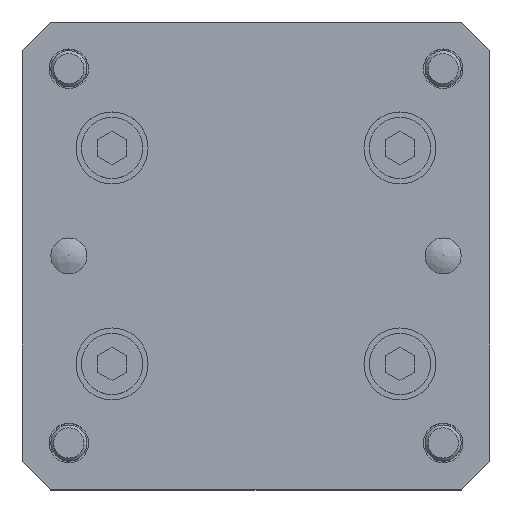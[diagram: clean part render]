
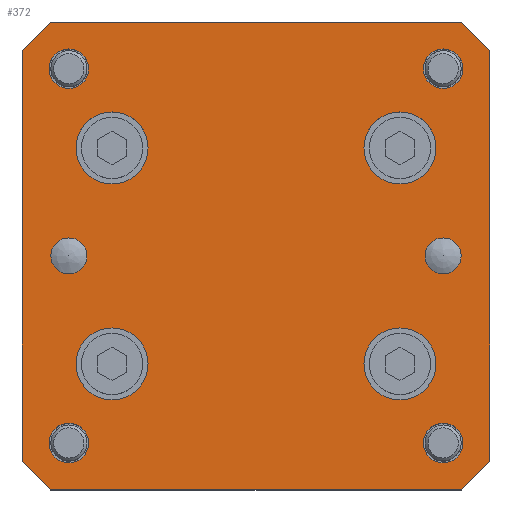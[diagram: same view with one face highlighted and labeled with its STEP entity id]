
A CAD part, top view. The second image highlights one B-rep face of the part: STEP entity #372.
In plain terms, the highlighted planar face has unit normal (0, 0, 1).
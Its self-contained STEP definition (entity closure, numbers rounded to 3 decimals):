
#372 = ADVANCED_FACE( '', ( #852, #853, #854, #855, #856, #857, #858, #859, #860, #861, #862 ), #863, .F. );
#852 = FACE_BOUND( '', #1443, .T. );
#853 = FACE_BOUND( '', #1444, .T. );
#854 = FACE_BOUND( '', #1445, .T. );
#855 = FACE_BOUND( '', #1446, .T. );
#856 = FACE_BOUND( '', #1447, .T. );
#857 = FACE_BOUND( '', #1448, .T. );
#858 = FACE_BOUND( '', #1449, .T. );
#859 = FACE_BOUND( '', #1450, .T. );
#860 = FACE_BOUND( '', #1451, .T. );
#861 = FACE_BOUND( '', #1452, .T. );
#862 = FACE_OUTER_BOUND( '', #1453, .T. );
#863 = PLANE( '', #1454 );
#1443 = EDGE_LOOP( '', ( #2391 ) );
#1444 = EDGE_LOOP( '', ( #2392 ) );
#1445 = EDGE_LOOP( '', ( #2393 ) );
#1446 = EDGE_LOOP( '', ( #2394 ) );
#1447 = EDGE_LOOP( '', ( #2395 ) );
#1448 = EDGE_LOOP( '', ( #2396 ) );
#1449 = EDGE_LOOP( '', ( #2397 ) );
#1450 = EDGE_LOOP( '', ( #2398 ) );
#1451 = EDGE_LOOP( '', ( #2399 ) );
#1452 = EDGE_LOOP( '', ( #2400 ) );
#1453 = EDGE_LOOP( '', ( #2401, #2402, #2403, #2404, #2405, #2406, #2407, #2408 ) );
#1454 = AXIS2_PLACEMENT_3D( '', #2409, #2410, #2411 );
#2391 = ORIENTED_EDGE( '', *, *, #3125, .F. );
#2392 = ORIENTED_EDGE( '', *, *, #2826, .T. );
#2393 = ORIENTED_EDGE( '', *, *, #2993, .T. );
#2394 = ORIENTED_EDGE( '', *, *, #2943, .F. );
#2395 = ORIENTED_EDGE( '', *, *, #3126, .F. );
#2396 = ORIENTED_EDGE( '', *, *, #2901, .T. );
#2397 = ORIENTED_EDGE( '', *, *, #3033, .T. );
#2398 = ORIENTED_EDGE( '', *, *, #2924, .F. );
#2399 = ORIENTED_EDGE( '', *, *, #2888, .F. );
#2400 = ORIENTED_EDGE( '', *, *, #3115, .T. );
#2401 = ORIENTED_EDGE( '', *, *, #3127, .F. );
#2402 = ORIENTED_EDGE( '', *, *, #2893, .T. );
#2403 = ORIENTED_EDGE( '', *, *, #3128, .F. );
#2404 = ORIENTED_EDGE( '', *, *, #3129, .T. );
#2405 = ORIENTED_EDGE( '', *, *, #3130, .F. );
#2406 = ORIENTED_EDGE( '', *, *, #3131, .T. );
#2407 = ORIENTED_EDGE( '', *, *, #2864, .F. );
#2408 = ORIENTED_EDGE( '', *, *, #3132, .T. );
#2409 = CARTESIAN_POINT( '', ( -32.5, 32.5, 0. ) );
#2410 = DIRECTION( '', ( 0., 0., -1. ) );
#2411 = DIRECTION( '', ( 0., 1., 0. ) );
#2826 = EDGE_CURVE( '', #3261, #3261, #3262, .T. );
#2864 = EDGE_CURVE( '', #3327, #3328, #3329, .T. );
#2888 = EDGE_CURVE( '', #3370, #3370, #3371, .T. );
#2893 = EDGE_CURVE( '', #3380, #3378, #3381, .F. );
#2901 = EDGE_CURVE( '', #3392, #3392, #3393, .T. );
#2924 = EDGE_CURVE( '', #3428, #3428, #3429, .T. );
#2943 = EDGE_CURVE( '', #3459, #3459, #3460, .T. );
#2993 = EDGE_CURVE( '', #3538, #3538, #3539, .T. );
#3033 = EDGE_CURVE( '', #3602, #3602, #3603, .T. );
#3115 = EDGE_CURVE( '', #3714, #3714, #3715, .T. );
#3125 = EDGE_CURVE( '', #3726, #3726, #3727, .T. );
#3126 = EDGE_CURVE( '', #3728, #3728, #3729, .T. );
#3127 = EDGE_CURVE( '', #3380, #3730, #3731, .T. );
#3128 = EDGE_CURVE( '', #3732, #3378, #3733, .T. );
#3129 = EDGE_CURVE( '', #3732, #3734, #3735, .F. );
#3130 = EDGE_CURVE( '', #3736, #3734, #3737, .T. );
#3131 = EDGE_CURVE( '', #3736, #3328, #3738, .F. );
#3132 = EDGE_CURVE( '', #3327, #3730, #3739, .F. );
#3261 = VERTEX_POINT( '', #3953 );
#3262 = CIRCLE( '', #3954, 2.5 );
#3327 = VERTEX_POINT( '', #4045 );
#3328 = VERTEX_POINT( '', #4046 );
#3329 = LINE( '', #4047, #4048 );
#3370 = VERTEX_POINT( '', #4105 );
#3371 = CIRCLE( '', #4106, 5. );
#3378 = VERTEX_POINT( '', #4114 );
#3380 = VERTEX_POINT( '', #4117 );
#3381 = LINE( '', #4118, #4119 );
#3392 = VERTEX_POINT( '', #4134 );
#3393 = CIRCLE( '', #4135, 2.75 );
#3428 = VERTEX_POINT( '', #4209 );
#3429 = CIRCLE( '', #4210, 5. );
#3459 = VERTEX_POINT( '', #4248 );
#3460 = CIRCLE( '', #4249, 2.75 );
#3538 = VERTEX_POINT( '', #4384 );
#3539 = CIRCLE( '', #4385, 2.75 );
#3602 = VERTEX_POINT( '', #4565 );
#3603 = CIRCLE( '', #4566, 5. );
#3714 = VERTEX_POINT( '', #4707 );
#3715 = CIRCLE( '', #4708, 5. );
#3726 = VERTEX_POINT( '', #4722 );
#3727 = CIRCLE( '', #4723, 2.5 );
#3728 = VERTEX_POINT( '', #4724 );
#3729 = CIRCLE( '', #4725, 2.75 );
#3730 = VERTEX_POINT( '', #4726 );
#3731 = LINE( '', #4727, #4728 );
#3732 = VERTEX_POINT( '', #4729 );
#3733 = LINE( '', #4730, #4731 );
#3734 = VERTEX_POINT( '', #4732 );
#3735 = LINE( '', #4733, #4734 );
#3736 = VERTEX_POINT( '', #4735 );
#3737 = LINE( '', #4736, #4737 );
#3738 = LINE( '', #4738, #4739 );
#3739 = LINE( '', #4740, #4741 );
#3953 = CARTESIAN_POINT( '', ( 28.5, 0., 0. ) );
#3954 = AXIS2_PLACEMENT_3D( '', #4923, #4924, #4925 );
#4045 = CARTESIAN_POINT( '', ( 32.5, 28.5, 0. ) );
#4046 = CARTESIAN_POINT( '', ( 32.5, -28.5, 0. ) );
#4047 = CARTESIAN_POINT( '', ( 32.5, 32.5, 0. ) );
#4048 = VECTOR( '', #4964, 1000. );
#4105 = CARTESIAN_POINT( '', ( -25., 15., 0. ) );
#4106 = AXIS2_PLACEMENT_3D( '', #4990, #4991, #4992 );
#4114 = CARTESIAN_POINT( '', ( -32.5, 28.5, 0. ) );
#4117 = CARTESIAN_POINT( '', ( -28.5, 32.5, 0. ) );
#4118 = CARTESIAN_POINT( '', ( -28.5, 32.5, 0. ) );
#4119 = VECTOR( '', #4998, 1000. );
#4134 = CARTESIAN_POINT( '', ( 28.75, 26., 0. ) );
#4135 = AXIS2_PLACEMENT_3D( '', #5006, #5007, #5008 );
#4209 = CARTESIAN_POINT( '', ( 25., -15., 0. ) );
#4210 = AXIS2_PLACEMENT_3D( '', #5036, #5037, #5038 );
#4248 = CARTESIAN_POINT( '', ( 28.75, -26., 0. ) );
#4249 = AXIS2_PLACEMENT_3D( '', #5062, #5063, #5064 );
#4384 = CARTESIAN_POINT( '', ( -28.75, -26., 0. ) );
#4385 = AXIS2_PLACEMENT_3D( '', #5113, #5114, #5115 );
#4565 = CARTESIAN_POINT( '', ( -25., -15., 0. ) );
#4566 = AXIS2_PLACEMENT_3D( '', #5155, #5156, #5157 );
#4707 = CARTESIAN_POINT( '', ( 25., 15., 0. ) );
#4708 = AXIS2_PLACEMENT_3D( '', #5239, #5240, #5241 );
#4722 = CARTESIAN_POINT( '', ( -28.5, 0., 0. ) );
#4723 = AXIS2_PLACEMENT_3D( '', #5248, #5249, #5250 );
#4724 = CARTESIAN_POINT( '', ( -28.75, 26., 0. ) );
#4725 = AXIS2_PLACEMENT_3D( '', #5251, #5252, #5253 );
#4726 = CARTESIAN_POINT( '', ( 28.5, 32.5, 0. ) );
#4727 = CARTESIAN_POINT( '', ( -32.5, 32.5, 0. ) );
#4728 = VECTOR( '', #5254, 1000. );
#4729 = CARTESIAN_POINT( '', ( -32.5, -28.5, 0. ) );
#4730 = CARTESIAN_POINT( '', ( -32.5, -32.5, 0. ) );
#4731 = VECTOR( '', #5255, 1000. );
#4732 = CARTESIAN_POINT( '', ( -28.5, -32.5, 0. ) );
#4733 = CARTESIAN_POINT( '', ( -32.5, -28.5, 0. ) );
#4734 = VECTOR( '', #5256, 1000. );
#4735 = CARTESIAN_POINT( '', ( 28.5, -32.5, 0. ) );
#4736 = CARTESIAN_POINT( '', ( 32.5, -32.5, 0. ) );
#4737 = VECTOR( '', #5257, 1000. );
#4738 = CARTESIAN_POINT( '', ( 28.5, -32.5, 0. ) );
#4739 = VECTOR( '', #5258, 1000. );
#4740 = CARTESIAN_POINT( '', ( 32.5, 28.5, 0. ) );
#4741 = VECTOR( '', #5259, 1000. );
#4923 = CARTESIAN_POINT( '', ( 26., 0., 0. ) );
#4924 = DIRECTION( '', ( 0., 0., -1. ) );
#4925 = DIRECTION( '', ( 1., 0., 0. ) );
#4964 = DIRECTION( '', ( 0., -1., 0. ) );
#4990 = CARTESIAN_POINT( '', ( -20., 15., 0. ) );
#4991 = DIRECTION( '', ( 0., 0., 1. ) );
#4992 = DIRECTION( '', ( -1., 0., 0. ) );
#4998 = DIRECTION( '', ( 0.707, 0.707, 0. ) );
#5006 = CARTESIAN_POINT( '', ( 26., 26., 0. ) );
#5007 = DIRECTION( '', ( 0., 0., -1. ) );
#5008 = DIRECTION( '', ( 1., 0., 0. ) );
#5036 = CARTESIAN_POINT( '', ( 20., -15., 0. ) );
#5037 = DIRECTION( '', ( 0., 0., 1. ) );
#5038 = DIRECTION( '', ( 1., 0., 0. ) );
#5062 = CARTESIAN_POINT( '', ( 26., -26., 0. ) );
#5063 = DIRECTION( '', ( 0., 0., 1. ) );
#5064 = DIRECTION( '', ( 1., 0., 0. ) );
#5113 = CARTESIAN_POINT( '', ( -26., -26., 0. ) );
#5114 = DIRECTION( '', ( 0., 0., -1. ) );
#5115 = DIRECTION( '', ( -1., 0., 0. ) );
#5155 = CARTESIAN_POINT( '', ( -20., -15., 0. ) );
#5156 = DIRECTION( '', ( 0., 0., -1. ) );
#5157 = DIRECTION( '', ( -1., 0., 0. ) );
#5239 = CARTESIAN_POINT( '', ( 20., 15., 0. ) );
#5240 = DIRECTION( '', ( 0., 0., -1. ) );
#5241 = DIRECTION( '', ( 1., 0., 0. ) );
#5248 = CARTESIAN_POINT( '', ( -26., 0., 0. ) );
#5249 = DIRECTION( '', ( 0., 0., 1. ) );
#5250 = DIRECTION( '', ( -1., 0., 0. ) );
#5251 = CARTESIAN_POINT( '', ( -26., 26., 0. ) );
#5252 = DIRECTION( '', ( 0., 0., 1. ) );
#5253 = DIRECTION( '', ( -1., 0., 0. ) );
#5254 = DIRECTION( '', ( 1., 0., 0. ) );
#5255 = DIRECTION( '', ( 0., 1., 0. ) );
#5256 = DIRECTION( '', ( -0.707, 0.707, 0. ) );
#5257 = DIRECTION( '', ( -1., 0., 0. ) );
#5258 = DIRECTION( '', ( -0.707, -0.707, 0. ) );
#5259 = DIRECTION( '', ( 0.707, -0.707, 0. ) );
